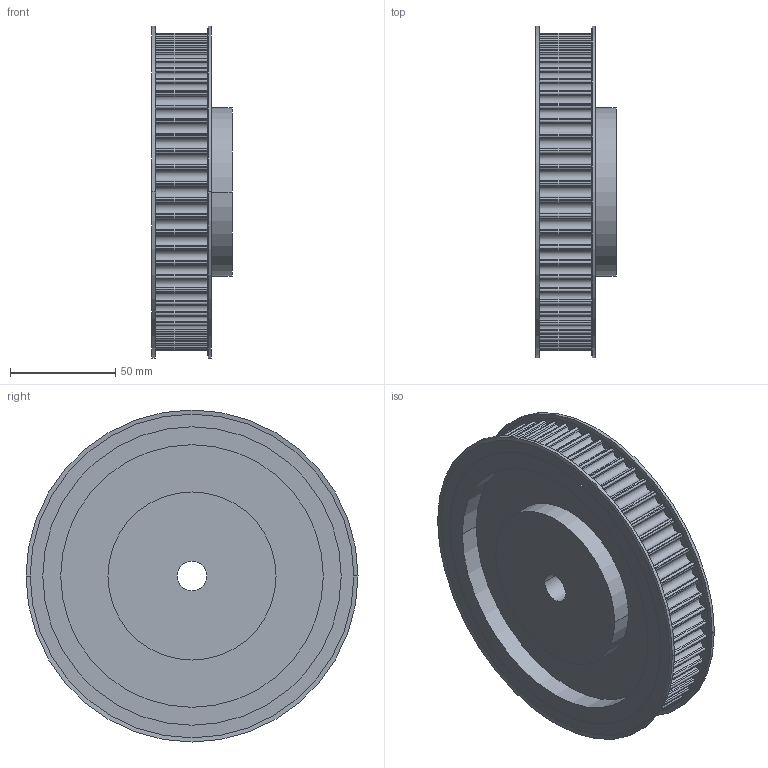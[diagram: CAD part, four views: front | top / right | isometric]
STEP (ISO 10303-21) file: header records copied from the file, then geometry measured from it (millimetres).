
FILE_DESCRIPTION( ( '' ), '1' );
FILE_NAME( 'C:/Users/Stangenbergd/Documents/CAD_Step/1/17413000.stp', '2021-10-19T10:09:19', ( '' ), ( '' ), ' ', ' ', ' ' );
FILE_SCHEMA( ( 'CONFIG_CONTROL_DESIGN' ) );
Length unit declared in the file: millimetre
Products named in the file (1): 1
Bounding box: 38.13 x 158 x 158 mm (x, y, z)
Volume: 392959.5 mm3; surface area: 79278.5 mm2
Topology: 1 solids, 1 shells, 396 faces, 1150 edges, 764 vertices
Faces by surface type: cylinder 258, plane 130, cone 8
Entity records: 13342 total; most frequent: DIRECTION 2468, CARTESIAN_POINT 2311, ORIENTED_EDGE 2300, EDGE_CURVE 1150, AXIS2_PLACEMENT_3D 921, VERTEX_POINT 764, LINE 626, VECTOR 626
